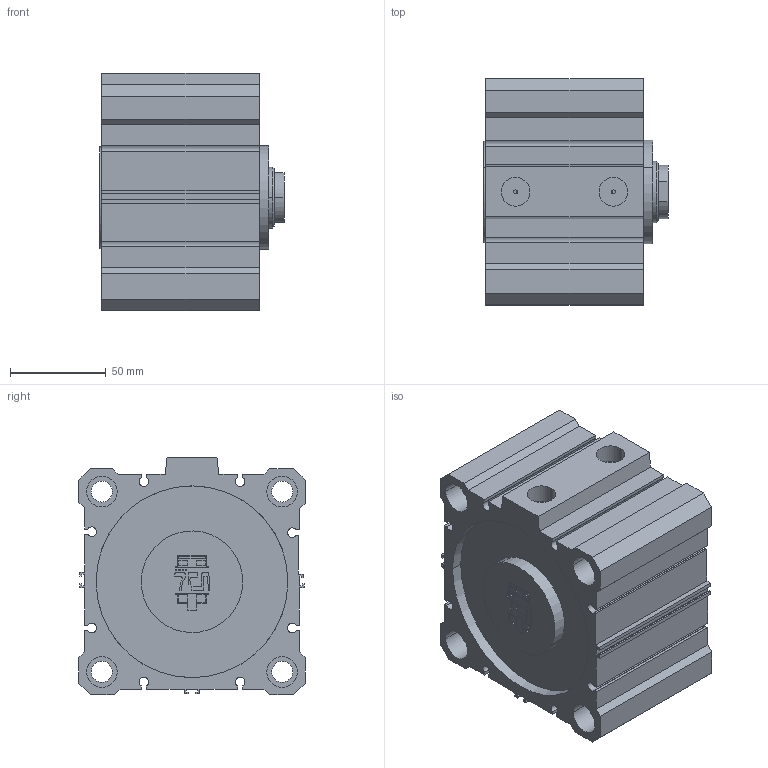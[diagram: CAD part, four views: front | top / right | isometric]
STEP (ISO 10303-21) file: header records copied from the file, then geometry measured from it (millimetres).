
FILE_DESCRIPTION(('CATIA V5 STEP Exchange'),'2;1');
FILE_NAME('D:\PDA\PDA-STP\PDA 100-32\PDA 100-32-25.stp','2016-02-02T11:06:55+00:00',('none'),('none'),'Version 5-6 Release 2012','CATIA V5 STEP AP203','none');
FILE_SCHEMA(('CONFIG_CONTROL_DESIGN'));
Length unit declared in the file: millimetre
Products named in the file (1): PDA 100-32-25-00
Assembly tree (2 placements, depth 2):
  PDA 100-32-25-00
    #58
    #7695
Bounding box: 96 x 118 x 124 mm (x, y, z)
Volume: 722021.5 mm3; surface area: 155517.3 mm2
Topology: 2 solids, 2 shells, 284 faces, 744 edges, 498 vertices
Faces by surface type: plane 202, cylinder 80, cone 2
Entity records: 8167 total; most frequent: ORIENTED_EDGE 1488, CARTESIAN_POINT 1432, DIRECTION 1124, EDGE_CURVE 744, VECTOR 574, LINE 574, VERTEX_POINT 498, AXIS2_PLACEMENT_3D 360
